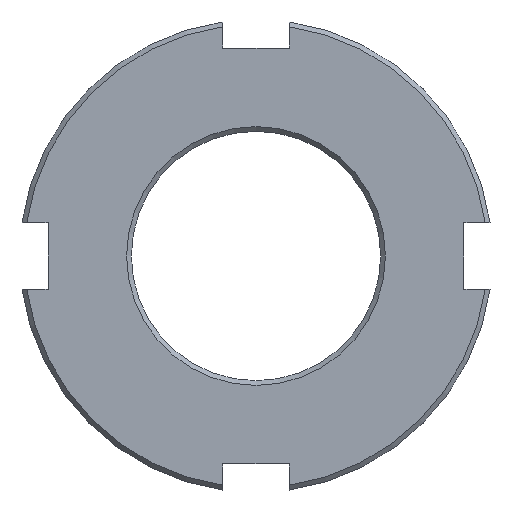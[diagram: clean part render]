
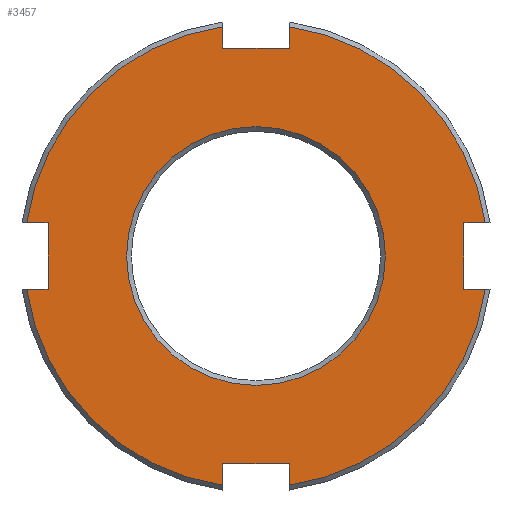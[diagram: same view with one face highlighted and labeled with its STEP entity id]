
A CAD part, front view. The second image highlights one B-rep face of the part: STEP entity #3457.
In plain terms, the highlighted planar face has unit normal (0, -1, 0).
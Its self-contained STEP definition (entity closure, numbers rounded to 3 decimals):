
#49=CIRCLE('',#3602,13.688);
#53=CIRCLE('',#3608,24.5);
#54=CIRCLE('',#3609,24.5);
#55=CIRCLE('',#3610,24.5);
#56=CIRCLE('',#3611,24.5);
#87=FACE_BOUND('',#641,.T.);
#436=FACE_OUTER_BOUND('',#640,.T.);
#640=EDGE_LOOP('',(#3033,#3034,#3035,#3036,#3037,#3038,#3039,#3040,#3041,
#3042,#3043,#3044,#3045,#3046,#3047,#3048));
#641=EDGE_LOOP('',(#3049));
#967=LINE('',#5984,#1305);
#968=LINE('',#5986,#1306);
#969=LINE('',#5988,#1307);
#970=LINE('',#5992,#1308);
#971=LINE('',#5994,#1309);
#972=LINE('',#5996,#1310);
#973=LINE('',#6000,#1311);
#974=LINE('',#6002,#1312);
#975=LINE('',#6004,#1313);
#976=LINE('',#6008,#1314);
#977=LINE('',#6010,#1315);
#978=LINE('',#6011,#1316);
#1305=VECTOR('',#4157,10.);
#1306=VECTOR('',#4158,10.);
#1307=VECTOR('',#4159,10.);
#1308=VECTOR('',#4162,10.);
#1309=VECTOR('',#4163,10.);
#1310=VECTOR('',#4164,10.);
#1311=VECTOR('',#4167,10.);
#1312=VECTOR('',#4168,10.);
#1313=VECTOR('',#4169,10.);
#1314=VECTOR('',#4172,10.);
#1315=VECTOR('',#4173,10.);
#1316=VECTOR('',#4174,10.);
#1629=VERTEX_POINT('',#5968);
#1633=VERTEX_POINT('',#5980);
#1634=VERTEX_POINT('',#5981);
#1635=VERTEX_POINT('',#5983);
#1636=VERTEX_POINT('',#5985);
#1637=VERTEX_POINT('',#5987);
#1638=VERTEX_POINT('',#5989);
#1639=VERTEX_POINT('',#5991);
#1640=VERTEX_POINT('',#5993);
#1641=VERTEX_POINT('',#5995);
#1642=VERTEX_POINT('',#5997);
#1643=VERTEX_POINT('',#5999);
#1644=VERTEX_POINT('',#6001);
#1645=VERTEX_POINT('',#6003);
#1646=VERTEX_POINT('',#6005);
#1647=VERTEX_POINT('',#6007);
#1648=VERTEX_POINT('',#6009);
#2104=EDGE_CURVE('',#1629,#1629,#49,.T.);
#2110=EDGE_CURVE('',#1633,#1634,#53,.T.);
#2111=EDGE_CURVE('',#1633,#1635,#967,.T.);
#2112=EDGE_CURVE('',#1635,#1636,#968,.T.);
#2113=EDGE_CURVE('',#1636,#1637,#969,.T.);
#2114=EDGE_CURVE('',#1638,#1637,#54,.T.);
#2115=EDGE_CURVE('',#1638,#1639,#970,.T.);
#2116=EDGE_CURVE('',#1639,#1640,#971,.T.);
#2117=EDGE_CURVE('',#1640,#1641,#972,.T.);
#2118=EDGE_CURVE('',#1642,#1641,#55,.T.);
#2119=EDGE_CURVE('',#1642,#1643,#973,.T.);
#2120=EDGE_CURVE('',#1643,#1644,#974,.T.);
#2121=EDGE_CURVE('',#1644,#1645,#975,.T.);
#2122=EDGE_CURVE('',#1646,#1645,#56,.T.);
#2123=EDGE_CURVE('',#1646,#1647,#976,.T.);
#2124=EDGE_CURVE('',#1647,#1648,#977,.T.);
#2125=EDGE_CURVE('',#1648,#1634,#978,.T.);
#3033=ORIENTED_EDGE('',*,*,#2110,.F.);
#3034=ORIENTED_EDGE('',*,*,#2111,.T.);
#3035=ORIENTED_EDGE('',*,*,#2112,.T.);
#3036=ORIENTED_EDGE('',*,*,#2113,.T.);
#3037=ORIENTED_EDGE('',*,*,#2114,.F.);
#3038=ORIENTED_EDGE('',*,*,#2115,.T.);
#3039=ORIENTED_EDGE('',*,*,#2116,.T.);
#3040=ORIENTED_EDGE('',*,*,#2117,.T.);
#3041=ORIENTED_EDGE('',*,*,#2118,.F.);
#3042=ORIENTED_EDGE('',*,*,#2119,.T.);
#3043=ORIENTED_EDGE('',*,*,#2120,.T.);
#3044=ORIENTED_EDGE('',*,*,#2121,.T.);
#3045=ORIENTED_EDGE('',*,*,#2122,.F.);
#3046=ORIENTED_EDGE('',*,*,#2123,.T.);
#3047=ORIENTED_EDGE('',*,*,#2124,.T.);
#3048=ORIENTED_EDGE('',*,*,#2125,.T.);
#3049=ORIENTED_EDGE('',*,*,#2104,.F.);
#3284=PLANE('',#3607);
#3457=ADVANCED_FACE('',(#436,#87),#3284,.F.);
#3602=AXIS2_PLACEMENT_3D('',#5969,#4141,#4142);
#3607=AXIS2_PLACEMENT_3D('',#5979,#4153,#4154);
#3608=AXIS2_PLACEMENT_3D('',#5982,#4155,#4156);
#3609=AXIS2_PLACEMENT_3D('',#5990,#4160,#4161);
#3610=AXIS2_PLACEMENT_3D('',#5998,#4165,#4166);
#3611=AXIS2_PLACEMENT_3D('',#6006,#4170,#4171);
#4141=DIRECTION('center_axis',(0.,-1.,0.));
#4142=DIRECTION('ref_axis',(1.,0.,0.));
#4153=DIRECTION('center_axis',(0.,1.,0.));
#4154=DIRECTION('ref_axis',(0.,0.,1.));
#4155=DIRECTION('center_axis',(0.,1.,0.));
#4156=DIRECTION('ref_axis',(0.99,0.,-0.14));
#4157=DIRECTION('',(-1.,0.,0.));
#4158=DIRECTION('',(0.,0.,1.));
#4159=DIRECTION('',(1.,0.,0.));
#4160=DIRECTION('center_axis',(0.,1.,0.));
#4161=DIRECTION('ref_axis',(0.14,0.,0.99));
#4162=DIRECTION('',(0.,0.,-1.));
#4163=DIRECTION('',(-1.,0.,0.));
#4164=DIRECTION('',(0.,0.,1.));
#4165=DIRECTION('center_axis',(0.,1.,0.));
#4166=DIRECTION('ref_axis',(-0.99,0.,0.14));
#4167=DIRECTION('',(1.,0.,0.));
#4168=DIRECTION('',(0.,0.,-1.));
#4169=DIRECTION('',(-1.,0.,0.));
#4170=DIRECTION('center_axis',(0.,1.,0.));
#4171=DIRECTION('ref_axis',(-0.14,0.,-0.99));
#4172=DIRECTION('',(0.,0.,1.));
#4173=DIRECTION('',(1.,0.,0.));
#4174=DIRECTION('',(0.,0.,-1.));
#5968=CARTESIAN_POINT('',(-13.688,0.,0.));
#5969=CARTESIAN_POINT('Origin',(0.,0.,0.));
#5979=CARTESIAN_POINT('Origin',(0.,0.,0.));
#5980=CARTESIAN_POINT('',(24.249,0.,-3.5));
#5981=CARTESIAN_POINT('',(3.5,0.,-24.249));
#5982=CARTESIAN_POINT('Origin',(0.,0.,0.));
#5983=CARTESIAN_POINT('',(22.,0.,-3.5));
#5984=CARTESIAN_POINT('',(24.754,0.,-3.5));
#5985=CARTESIAN_POINT('',(22.,0.,3.5));
#5986=CARTESIAN_POINT('',(22.,0.,-3.5));
#5987=CARTESIAN_POINT('',(24.249,0.,3.5));
#5988=CARTESIAN_POINT('',(22.,0.,3.5));
#5989=CARTESIAN_POINT('',(3.5,0.,24.249));
#5990=CARTESIAN_POINT('Origin',(0.,0.,0.));
#5991=CARTESIAN_POINT('',(3.5,0.,22.));
#5992=CARTESIAN_POINT('',(3.5,0.,24.754));
#5993=CARTESIAN_POINT('',(-3.5,0.,22.));
#5994=CARTESIAN_POINT('',(3.5,0.,22.));
#5995=CARTESIAN_POINT('',(-3.5,0.,24.249));
#5996=CARTESIAN_POINT('',(-3.5,0.,22.));
#5997=CARTESIAN_POINT('',(-24.249,0.,3.5));
#5998=CARTESIAN_POINT('Origin',(0.,0.,0.));
#5999=CARTESIAN_POINT('',(-22.,0.,3.5));
#6000=CARTESIAN_POINT('',(-24.754,0.,3.5));
#6001=CARTESIAN_POINT('',(-22.,0.,-3.5));
#6002=CARTESIAN_POINT('',(-22.,0.,3.5));
#6003=CARTESIAN_POINT('',(-24.249,0.,-3.5));
#6004=CARTESIAN_POINT('',(-22.,0.,-3.5));
#6005=CARTESIAN_POINT('',(-3.5,0.,-24.249));
#6006=CARTESIAN_POINT('Origin',(0.,0.,0.));
#6007=CARTESIAN_POINT('',(-3.5,0.,-22.));
#6008=CARTESIAN_POINT('',(-3.5,0.,-24.754));
#6009=CARTESIAN_POINT('',(3.5,0.,-22.));
#6010=CARTESIAN_POINT('',(-3.5,0.,-22.));
#6011=CARTESIAN_POINT('',(3.5,0.,-22.));
